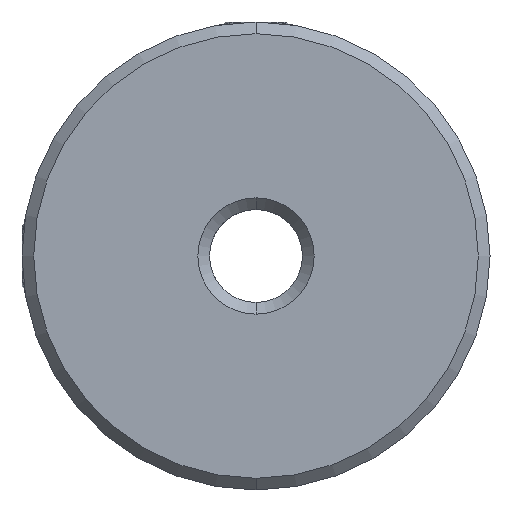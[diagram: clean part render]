
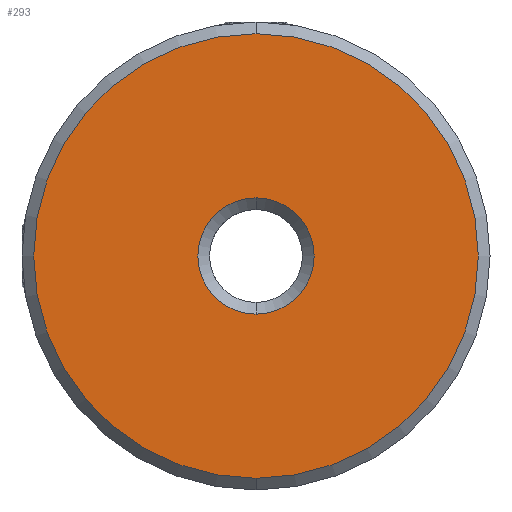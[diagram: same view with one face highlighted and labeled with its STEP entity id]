
A CAD part, front view. The second image highlights one B-rep face of the part: STEP entity #293.
In plain terms, the highlighted planar face has unit normal (0, -1, 0).
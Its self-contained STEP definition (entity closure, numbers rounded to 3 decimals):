
#92 = CARTESIAN_POINT ( 'NONE',  ( -10.188, -0.277, -15.154 ) ) ;
#239 = CARTESIAN_POINT ( 'NONE',  ( -10.188, -0.277, 0.046 ) ) ;
#248 = AXIS2_PLACEMENT_3D ( 'NONE', #1181, #3427, #1168 ) ;
#275 = VERTEX_POINT ( 'NONE', #572 ) ;
#277 = FACE_BOUND ( 'NONE', #3029, .T. ) ;
#293 = ADVANCED_FACE ( 'NONE', ( #1128, #277 ), #1424, .F. ) ;
#296 = EDGE_CURVE ( 'NONE', #1881, #1808, #1858, .T. ) ;
#493 = CIRCLE ( 'NONE', #1803, 3.975 ) ;
#572 = CARTESIAN_POINT ( 'NONE',  ( -10.188, -0.277, -3.929 ) ) ;
#785 = DIRECTION ( 'NONE',  ( 0., 0., 1. ) ) ;
#925 = EDGE_LOOP ( 'NONE', ( #3617, #1743 ) ) ;
#1036 = ORIENTED_EDGE ( 'NONE', *, *, #1585, .T. ) ;
#1128 = FACE_OUTER_BOUND ( 'NONE', #925, .T. ) ;
#1150 = EDGE_CURVE ( 'NONE', #1808, #1881, #1756, .T. ) ;
#1168 = DIRECTION ( 'NONE',  ( 0., 0., 1. ) ) ;
#1181 = CARTESIAN_POINT ( 'NONE',  ( -10.188, -0.277, 0.046 ) ) ;
#1372 = CARTESIAN_POINT ( 'NONE',  ( -10.188, -0.277, 0.046 ) ) ;
#1392 = VERTEX_POINT ( 'NONE', #2992 ) ;
#1395 = DIRECTION ( 'NONE',  ( 0., -1., 0. ) ) ;
#1408 = DIRECTION ( 'NONE',  ( 0., 0., 1. ) ) ;
#1424 = PLANE ( 'NONE',  #3279 ) ;
#1440 = DIRECTION ( 'NONE',  ( 0., 0., 1. ) ) ;
#1585 = EDGE_CURVE ( 'NONE', #1392, #275, #493, .T. ) ;
#1743 = ORIENTED_EDGE ( 'NONE', *, *, #296, .T. ) ;
#1756 = CIRCLE ( 'NONE', #2389, 15.2 ) ;
#1803 = AXIS2_PLACEMENT_3D ( 'NONE', #239, #1922, #1408 ) ;
#1808 = VERTEX_POINT ( 'NONE', #2872 ) ;
#1858 = CIRCLE ( 'NONE', #248, 15.2 ) ;
#1881 = VERTEX_POINT ( 'NONE', #92 ) ;
#1922 = DIRECTION ( 'NONE',  ( 0., 1., 0. ) ) ;
#2072 = CIRCLE ( 'NONE', #2474, 3.975 ) ;
#2292 = DIRECTION ( 'NONE',  ( 0., 1., 0. ) ) ;
#2323 = ORIENTED_EDGE ( 'NONE', *, *, #2470, .T. ) ;
#2389 = AXIS2_PLACEMENT_3D ( 'NONE', #2823, #1395, #785 ) ;
#2470 = EDGE_CURVE ( 'NONE', #275, #1392, #2072, .T. ) ;
#2474 = AXIS2_PLACEMENT_3D ( 'NONE', #1372, #2480, #3621 ) ;
#2480 = DIRECTION ( 'NONE',  ( 0., 1., 0. ) ) ;
#2823 = CARTESIAN_POINT ( 'NONE',  ( -10.188, -0.277, 0.046 ) ) ;
#2865 = CARTESIAN_POINT ( 'NONE',  ( -10.188, -0.277, 0.046 ) ) ;
#2872 = CARTESIAN_POINT ( 'NONE',  ( -10.188, -0.277, 15.246 ) ) ;
#2992 = CARTESIAN_POINT ( 'NONE',  ( -10.188, -0.277, 4.021 ) ) ;
#3029 = EDGE_LOOP ( 'NONE', ( #2323, #1036 ) ) ;
#3279 = AXIS2_PLACEMENT_3D ( 'NONE', #2865, #2292, #1440 ) ;
#3427 = DIRECTION ( 'NONE',  ( 0., -1., 0. ) ) ;
#3617 = ORIENTED_EDGE ( 'NONE', *, *, #1150, .T. ) ;
#3621 = DIRECTION ( 'NONE',  ( 0., 0., 1. ) ) ;
